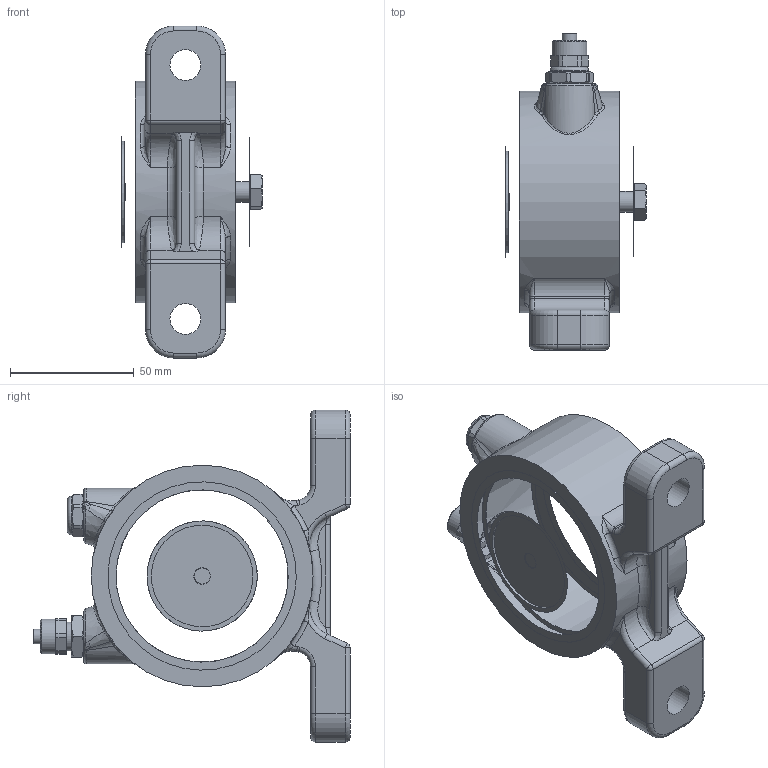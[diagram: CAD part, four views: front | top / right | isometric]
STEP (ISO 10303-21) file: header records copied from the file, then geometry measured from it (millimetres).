
FILE_DESCRIPTION(/* description */ (''),/* implementation_level */ '2;1');
FILE_NAME(/* name */ 'PV 25.stp',/* time_stamp */ '2026-09-09T09:52:03+03:00',/* author */ ('PC'),/* organization */ (''),/* preprocessor_version */ 'ST-DEVELOPER v20.1',/* originating_system */ 'Autodesk Inventor 2026',/* authorisation */ '');
FILE_SCHEMA (('AUTOMOTIVE_DESIGN { 1 0 10303 214 3 1 1 }'));
Length unit declared in the file: millimetre
Products named in the file (1): PV 25
Bounding box: 56.7 x 127.68 x 134 mm (x, y, z)
Volume: 340536.2 mm3; surface area: 40598 mm2
Topology: 1 solids, 4 shells, 266 faces, 593 edges, 350 vertices
Faces by surface type: cylinder 80, plane 78, bspline 60, torus 29, cone 15, sphere 4
Full cylindrical faces by diameter (mm): 4.8 x1, 5.93 x1, 6.647 x1, 7.13 x1, 8 x3, 8.5 x1, 9.5 x1, 11.5 x1, 11.6 x2, 12.5 x2, 14 x1, 15.58 x1, 24 x2, 41 x1, 72 x2, 76 x4, 89.5 x1
Entity records: 9753 total; most frequent: CARTESIAN_POINT 3889, ORIENTED_EDGE 1170, DIRECTION 1106, EDGE_CURVE 585, AXIS2_PLACEMENT_3D 466, VERTEX_POINT 350, EDGE_LOOP 299, FACE_OUTER_BOUND 266
